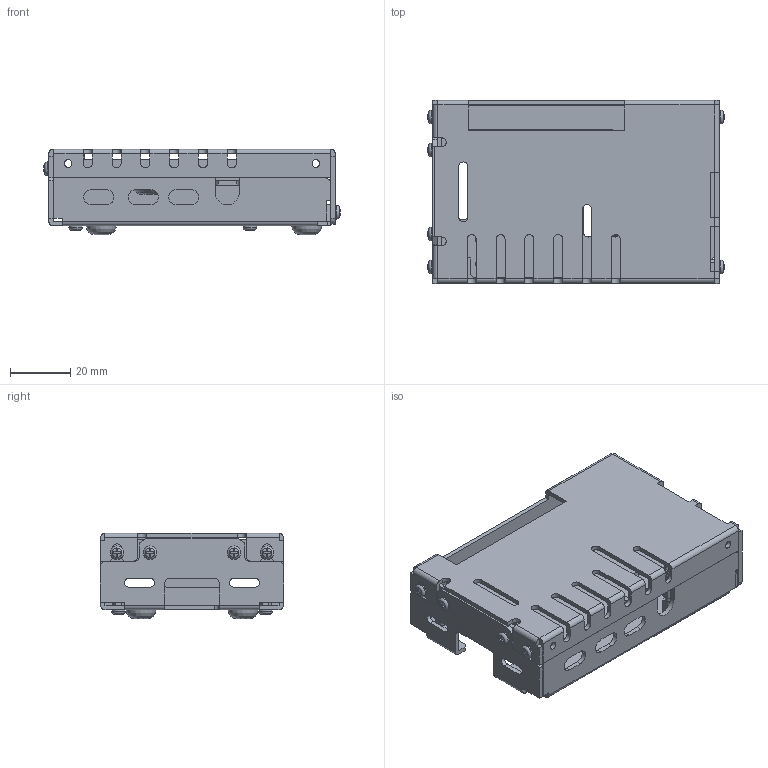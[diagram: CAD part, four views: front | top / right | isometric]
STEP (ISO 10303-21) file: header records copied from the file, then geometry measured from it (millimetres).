
FILE_DESCRIPTION(/* description */ (''),/* implementation_level */ '2;1');
FILE_NAME(/* name */ 'Aluminium Case for Rpi4.step',/* time_stamp */ '2019-12-10T15:00:44+09:00',/* author */ (''),/* organization */ (''),/* preprocessor_version */ 'ST-DEVELOPER v18',/* originating_system */ 'Autodesk Translation Framework v8.12.0.6',/* authorisation */ '');
FILE_SCHEMA (('AUTOMOTIVE_DESIGN { 1 0 10303 214 3 1 1 }'));
Length unit declared in the file: millimetre
Products named in the file (8): Aluminium Case for Rpi4; ND270-008E シャーシ v7; TM_96_6 v1; BSB-2605-3E v1; ASB-2611-3E v2; ND270-010K ヒートシンクカバー 
v1; ND270-009E カバー（ショートタイプ） 
v7; M2_6-4 Pan Head Screw v2
Assembly tree (25 placements, depth 2):
  Aluminium Case for Rpi4
    ND270-008E シャーシ v7
    TM_96_6 v1  x4
    M2_6-4 Pan Head Screw v2  x10
    BSB-2605-3E v1  x4
    ASB-2611-3E v2  x4
    ND270-010K ヒートシンクカバー 
v1
    ND270-009E カバー（ショートタイプ） 
v7
Bounding box: 98.87 x 61 x 28.5 mm (x, y, z)
Volume: 29154.7 mm3; surface area: 44473.7 mm2
Topology: 25 solids, 25 shells, 719 faces, 1987 edges, 1288 vertices
Faces by surface type: plane 472, cylinder 149, bspline 56, cone 20, torus 12, sphere 10
Full cylindrical faces by diameter (mm): 2 x4, 2.175 x14, 2.5 x8, 2.529 x2, 2.53 x4, 2.6 x10, 3.5 x6, 4.5 x10, 4.8 x4
Entity records: 14231 total; most frequent: CARTESIAN_POINT 2593, ORIENTED_EDGE 2396, DIRECTION 2340, EDGE_CURVE 1198, LINE 908, VECTOR 908, VERTEX_POINT 790, AXIS2_PLACEMENT_3D 716
